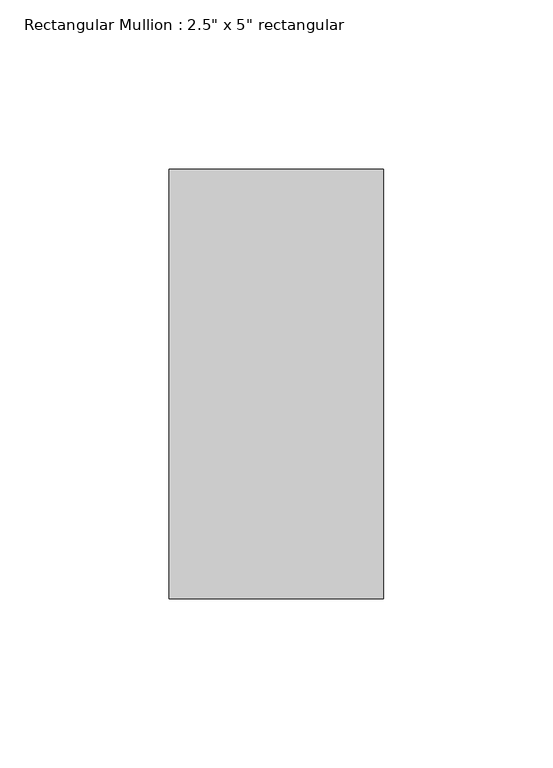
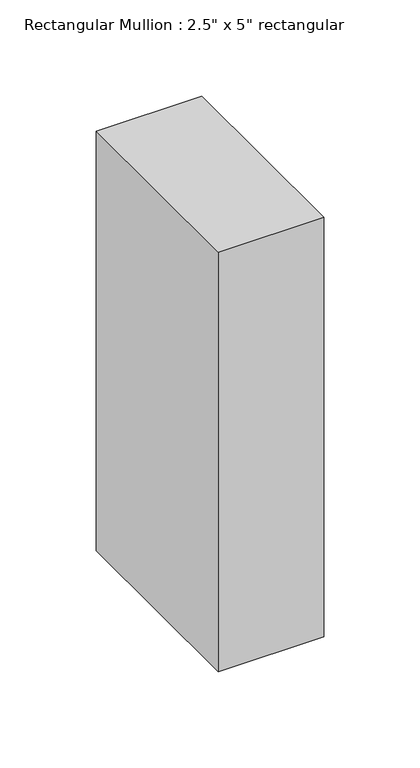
"""IFC4 building model written with IfcOpenShell, lengths in millimetres: member geometry."""

from ifc_helpers import new_model, si_unit, frame, origin, place, context, project, spatial, polyline, outline, extrude, source, transform, mapped, element, save


def member_55d34198(model_context):
    return source(origin(), model_context, "Body", "SweptSolid", [
        extrude(outline(polyline([(0.0, 63.5), (0.0, -63.5), (-63.5, -63.5), (-63.5, 63.5), (0.0, 63.5)])), frame((0.0, 0.0, -266.7), z_axis=(0.0, 0.0, 1.0), x_axis=(1.0, 0.0, 0.0)), (0.0, 0.0, 1.0), 266.7),
    ])


if __name__ == "__main__":
    model = new_model("IFC4")
    model_context = context("Model", 3, world=origin())
    ifc_project = project(units=[si_unit("LENGTHUNIT", "METRE", prefix="MILLI")], contexts=[model_context])
    site = spatial("IfcSite", under=ifc_project)
    building = spatial("IfcBuilding", under=site)
    placement = place(None, origin())
    member_shape = member_55d34198(model_context)
    element("IfcMember", 1, ObjectType="Rectangular Mullion : 2.5\" x 5\" rectangular", at=placement, inside=building, context=model_context, shape_type="MappedRepresentation", body=[
        mapped(member_shape, transform((0.0, 0.0, 0.0), x_axis=(1.0, 0.0, 0.0), y_axis=(0.0, 1.0, 0.0), z_axis=(0.0, 0.0, 1.0))),
    ])
    save(model, "model.ifc")
